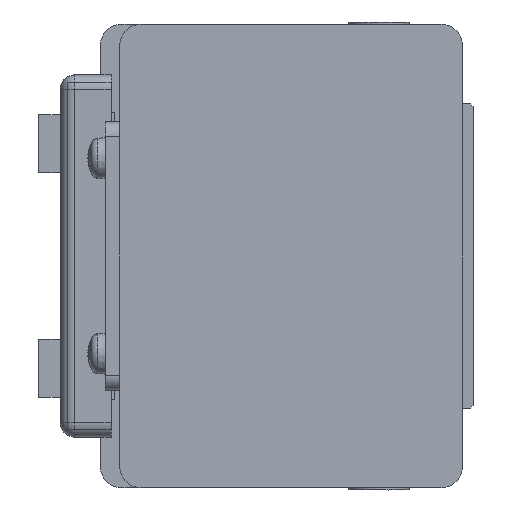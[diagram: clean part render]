
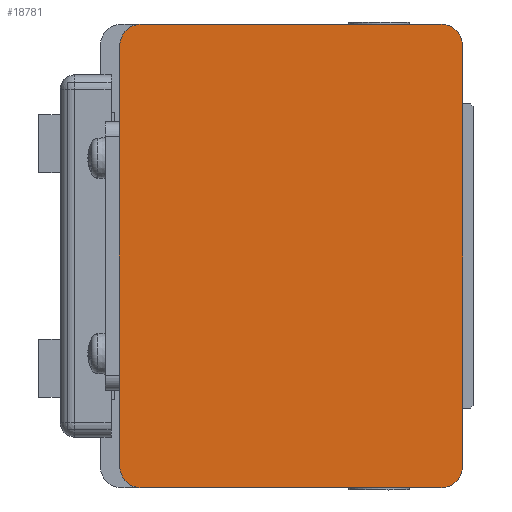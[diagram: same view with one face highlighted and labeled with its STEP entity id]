
A CAD part, left-side view. The second image highlights one B-rep face of the part: STEP entity #18781.
In plain terms, the highlighted planar face has unit normal (-1, 0, 0) as drawn and (0, 0, -1) by its records, which use the part's own axes.
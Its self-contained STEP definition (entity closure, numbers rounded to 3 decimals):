
#753=LINE('',#26425,#2399);
#770=LINE('',#26471,#2416);
#821=LINE('',#26594,#2467);
#845=LINE('',#26667,#2491);
#858=LINE('',#26702,#2504);
#859=LINE('',#26705,#2505);
#860=LINE('',#26706,#2506);
#861=LINE('',#26711,#2507);
#2399=VECTOR('',#21597,19.);
#2416=VECTOR('',#21632,41.3);
#2467=VECTOR('',#21727,41.3);
#2491=VECTOR('',#21789,19.);
#2504=VECTOR('',#21824,0.1);
#2505=VECTOR('',#21827,20.);
#2506=VECTOR('',#21828,0.1);
#2507=VECTOR('',#21833,58.);
#4212=PLANE('',#19989);
#5002=FACE_OUTER_BOUND('',#6094,.T.);
#6094=EDGE_LOOP('',(#12584,#12585,#12586,#12587,#12588,#12589,#12590,#12591,
#12592,#12593,#12594,#12595));
#7324=CIRCLE('',#19990,3.);
#7325=CIRCLE('',#19991,3.);
#7326=CIRCLE('',#19992,3.);
#7327=CIRCLE('',#19993,3.);
#7843=VERTEX_POINT('',#26422);
#7844=VERTEX_POINT('',#26424);
#7863=VERTEX_POINT('',#26468);
#7864=VERTEX_POINT('',#26470);
#7913=VERTEX_POINT('',#26591);
#7914=VERTEX_POINT('',#26593);
#7943=VERTEX_POINT('',#26664);
#7944=VERTEX_POINT('',#26666);
#7955=VERTEX_POINT('',#26700);
#7956=VERTEX_POINT('',#26704);
#7957=VERTEX_POINT('',#26708);
#7958=VERTEX_POINT('',#26710);
#9684=EDGE_CURVE('',#7844,#7843,#753,.T.);
#9707=EDGE_CURVE('',#7864,#7863,#770,.T.);
#9768=EDGE_CURVE('',#7914,#7913,#821,.T.);
#9804=EDGE_CURVE('',#7944,#7943,#845,.T.);
#9823=EDGE_CURVE('',#7955,#7843,#858,.T.);
#9824=EDGE_CURVE('',#7956,#7955,#859,.T.);
#9825=EDGE_CURVE('',#7944,#7956,#860,.T.);
#9826=EDGE_CURVE('',#7943,#7914,#7324,.T.);
#9827=EDGE_CURVE('',#7913,#7957,#7325,.T.);
#9828=EDGE_CURVE('',#7957,#7958,#861,.T.);
#9829=EDGE_CURVE('',#7958,#7864,#7326,.T.);
#9830=EDGE_CURVE('',#7863,#7844,#7327,.T.);
#12584=ORIENTED_EDGE('',*,*,#9684,.T.);
#12585=ORIENTED_EDGE('',*,*,#9823,.F.);
#12586=ORIENTED_EDGE('',*,*,#9824,.F.);
#12587=ORIENTED_EDGE('',*,*,#9825,.F.);
#12588=ORIENTED_EDGE('',*,*,#9804,.T.);
#12589=ORIENTED_EDGE('',*,*,#9826,.T.);
#12590=ORIENTED_EDGE('',*,*,#9768,.T.);
#12591=ORIENTED_EDGE('',*,*,#9827,.T.);
#12592=ORIENTED_EDGE('',*,*,#9828,.T.);
#12593=ORIENTED_EDGE('',*,*,#9829,.T.);
#12594=ORIENTED_EDGE('',*,*,#9707,.T.);
#12595=ORIENTED_EDGE('',*,*,#9830,.T.);
#18781=ADVANCED_FACE('',(#5002),#4212,.F.);
#19989=AXIS2_PLACEMENT_3D('',#26703,#21825,#21826);
#19990=AXIS2_PLACEMENT_3D('',#26707,#21829,#21830);
#19991=AXIS2_PLACEMENT_3D('',#26709,#21831,#21832);
#19992=AXIS2_PLACEMENT_3D('',#26712,#21834,#21835);
#19993=AXIS2_PLACEMENT_3D('',#26713,#21836,#21837);
#21597=DIRECTION('',(1.,0.,0.));
#21632=DIRECTION('',(0.,1.,0.));
#21727=DIRECTION('',(0.,-1.,0.));
#21789=DIRECTION('',(1.,0.,0.));
#21824=DIRECTION('',(0.,-1.,0.));
#21825=DIRECTION('center_axis',(0.,0.,1.));
#21826=DIRECTION('ref_axis',(1.,0.,0.));
#21827=DIRECTION('',(-1.,0.,0.));
#21828=DIRECTION('',(0.,1.,0.));
#21829=DIRECTION('center_axis',(0.,0.,-1.));
#21830=DIRECTION('ref_axis',(-1.,0.,0.));
#21831=DIRECTION('center_axis',(0.,0.,-1.));
#21832=DIRECTION('ref_axis',(0.,1.,0.));
#21833=DIRECTION('',(-1.,0.,0.));
#21834=DIRECTION('center_axis',(0.,0.,-1.));
#21835=DIRECTION('ref_axis',(1.,0.,0.));
#21836=DIRECTION('center_axis',(0.,0.,-1.));
#21837=DIRECTION('ref_axis',(0.,-1.,0.));
#26422=CARTESIAN_POINT('',(22.,48.8,-242.));
#26424=CARTESIAN_POINT('',(3.,48.8,-242.));
#26425=CARTESIAN_POINT('',(3.,48.8,-242.));
#26468=CARTESIAN_POINT('',(0.,45.8,-242.));
#26470=CARTESIAN_POINT('',(0.,4.5,-242.));
#26471=CARTESIAN_POINT('',(0.,4.5,-242.));
#26591=CARTESIAN_POINT('',(64.,4.5,-242.));
#26593=CARTESIAN_POINT('',(64.,45.8,-242.));
#26594=CARTESIAN_POINT('',(64.,45.8,-242.));
#26664=CARTESIAN_POINT('',(61.,48.8,-242.));
#26666=CARTESIAN_POINT('',(42.,48.8,-242.));
#26667=CARTESIAN_POINT('',(42.,48.8,-242.));
#26700=CARTESIAN_POINT('',(22.,48.9,-242.));
#26702=CARTESIAN_POINT('',(22.,48.9,-242.));
#26703=CARTESIAN_POINT('Origin',(32.,25.15,-242.));
#26704=CARTESIAN_POINT('',(42.,48.9,-242.));
#26705=CARTESIAN_POINT('',(42.,48.9,-242.));
#26706=CARTESIAN_POINT('',(42.,48.8,-242.));
#26707=CARTESIAN_POINT('Origin',(61.,45.8,-242.));
#26708=CARTESIAN_POINT('',(61.,1.5,-242.));
#26709=CARTESIAN_POINT('Origin',(61.,4.5,-242.));
#26710=CARTESIAN_POINT('',(3.,1.5,-242.));
#26711=CARTESIAN_POINT('',(61.,1.5,-242.));
#26712=CARTESIAN_POINT('Origin',(3.,4.5,-242.));
#26713=CARTESIAN_POINT('Origin',(3.,45.8,-242.));
